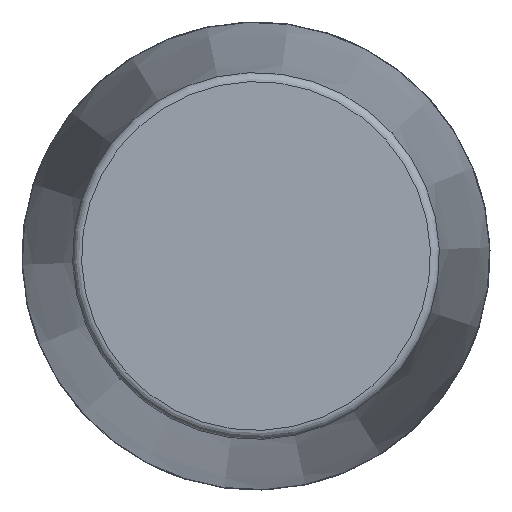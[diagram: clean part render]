
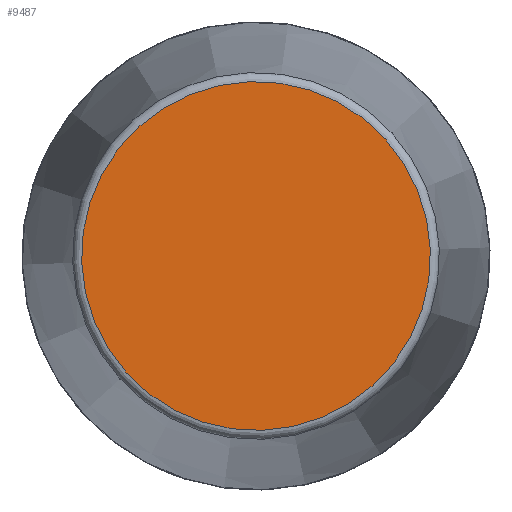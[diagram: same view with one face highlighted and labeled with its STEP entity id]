
A CAD part, front view. The second image highlights one B-rep face of the part: STEP entity #9487.
In plain terms, the highlighted planar face has unit normal (0, -1, 0) as drawn and (1, 0, 0) by its records, which use the part's own axes.
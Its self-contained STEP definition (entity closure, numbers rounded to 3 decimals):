
#227=PLANE('',#9826);
#3212=FACE_OUTER_BOUND('',#3831,.T.);
#3831=EDGE_LOOP('',(#8926));
#3872=CIRCLE('',#9822,96.847);
#4806=VERTEX_POINT('',#18358);
#6182=EDGE_CURVE('',#4806,#4806,#3872,.T.);
#8926=ORIENTED_EDGE('',*,*,#6182,.F.);
#9487=ADVANCED_FACE('',(#3212),#227,.T.);
#9822=AXIS2_PLACEMENT_3D('',#18359,#11063,#11064);
#9826=AXIS2_PLACEMENT_3D('',#18365,#11071,#11072);
#11063=DIRECTION('center_axis',(-1.,0.,0.));
#11064=DIRECTION('ref_axis',(0.,0.,
1.));
#11071=DIRECTION('center_axis',(1.,0.,0.));
#11072=DIRECTION('ref_axis',(0.,0.,-1.));
#18358=CARTESIAN_POINT('',(481.5,0.,-96.847));
#18359=CARTESIAN_POINT('Origin',(481.5,0.,0.));
#18365=CARTESIAN_POINT('Origin',(481.5,0.,0.));
